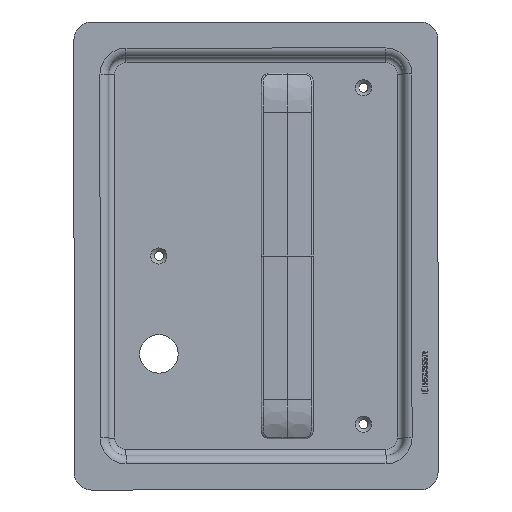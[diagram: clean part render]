
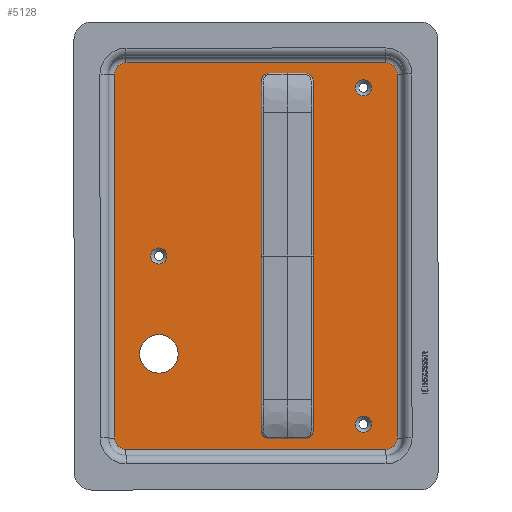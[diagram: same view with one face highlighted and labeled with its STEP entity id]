
A CAD part, front view. The second image highlights one B-rep face of the part: STEP entity #5128.
In plain terms, the highlighted planar face has unit normal (0, -1, 0) as drawn and (0, 0, -1) by its records, which use the part's own axes.
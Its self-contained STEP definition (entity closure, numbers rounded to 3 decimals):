
#388=FACE_BOUND('',#940,.T.);
#389=FACE_BOUND('',#941,.T.);
#390=FACE_BOUND('',#942,.T.);
#391=FACE_BOUND('',#943,.T.);
#392=FACE_BOUND('',#944,.T.);
#393=FACE_BOUND('',#945,.T.);
#394=FACE_BOUND('',#946,.T.);
#395=FACE_BOUND('',#947,.T.);
#425=PLANE('',#5542);
#634=FACE_OUTER_BOUND('',#939,.T.);
#939=EDGE_LOOP('',(#3541,#3542,#3543,#3544,#3545,#3546,#3547,#3548));
#940=EDGE_LOOP('',(#3549));
#941=EDGE_LOOP('',(#3550));
#942=EDGE_LOOP('',(#3551));
#943=EDGE_LOOP('',(#3552));
#944=EDGE_LOOP('',(#3553));
#945=EDGE_LOOP('',(#3554));
#946=EDGE_LOOP('',(#3555));
#947=EDGE_LOOP('',(#3556));
#1281=LINE('',#7106,#1699);
#1282=LINE('',#7110,#1700);
#1283=LINE('',#7114,#1701);
#1284=LINE('',#7118,#1702);
#1699=VECTOR('',#5945,10.);
#1700=VECTOR('',#5948,10.);
#1701=VECTOR('',#5951,10.);
#1702=VECTOR('',#5954,10.);
#2111=CIRCLE('',#5525,11.1);
#2113=CIRCLE('',#5528,2.75);
#2115=CIRCLE('',#5531,2.75);
#2117=CIRCLE('',#5534,2.75);
#2119=CIRCLE('',#5537,2.75);
#2121=CIRCLE('',#5540,4.65);
#2123=CIRCLE('',#5543,6.5);
#2124=CIRCLE('',#5544,6.5);
#2125=CIRCLE('',#5545,6.5);
#2126=CIRCLE('',#5546,6.5);
#2127=CIRCLE('',#5547,4.65);
#2128=CIRCLE('',#5548,4.65);
#2241=VERTEX_POINT('',#7068);
#2243=VERTEX_POINT('',#7074);
#2245=VERTEX_POINT('',#7080);
#2247=VERTEX_POINT('',#7086);
#2249=VERTEX_POINT('',#7092);
#2251=VERTEX_POINT('',#7098);
#2253=VERTEX_POINT('',#7104);
#2254=VERTEX_POINT('',#7105);
#2255=VERTEX_POINT('',#7107);
#2256=VERTEX_POINT('',#7109);
#2257=VERTEX_POINT('',#7111);
#2258=VERTEX_POINT('',#7113);
#2259=VERTEX_POINT('',#7115);
#2260=VERTEX_POINT('',#7117);
#2261=VERTEX_POINT('',#7120);
#2262=VERTEX_POINT('',#7122);
#2740=EDGE_CURVE('',#2241,#2241,#2111,.T.);
#2743=EDGE_CURVE('',#2243,#2243,#2113,.T.);
#2746=EDGE_CURVE('',#2245,#2245,#2115,.T.);
#2749=EDGE_CURVE('',#2247,#2247,#2117,.T.);
#2752=EDGE_CURVE('',#2249,#2249,#2119,.T.);
#2755=EDGE_CURVE('',#2251,#2251,#2121,.T.);
#2758=EDGE_CURVE('',#2253,#2254,#1281,.T.);
#2759=EDGE_CURVE('',#2254,#2255,#2123,.T.);
#2760=EDGE_CURVE('',#2255,#2256,#1282,.T.);
#2761=EDGE_CURVE('',#2256,#2257,#2124,.T.);
#2762=EDGE_CURVE('',#2257,#2258,#1283,.T.);
#2763=EDGE_CURVE('',#2258,#2259,#2125,.T.);
#2764=EDGE_CURVE('',#2259,#2260,#1284,.T.);
#2765=EDGE_CURVE('',#2260,#2253,#2126,.T.);
#2766=EDGE_CURVE('',#2261,#2261,#2127,.T.);
#2767=EDGE_CURVE('',#2262,#2262,#2128,.T.);
#3541=ORIENTED_EDGE('',*,*,#2758,.T.);
#3542=ORIENTED_EDGE('',*,*,#2759,.T.);
#3543=ORIENTED_EDGE('',*,*,#2760,.T.);
#3544=ORIENTED_EDGE('',*,*,#2761,.T.);
#3545=ORIENTED_EDGE('',*,*,#2762,.T.);
#3546=ORIENTED_EDGE('',*,*,#2763,.T.);
#3547=ORIENTED_EDGE('',*,*,#2764,.T.);
#3548=ORIENTED_EDGE('',*,*,#2765,.T.);
#3549=ORIENTED_EDGE('',*,*,#2740,.T.);
#3550=ORIENTED_EDGE('',*,*,#2743,.T.);
#3551=ORIENTED_EDGE('',*,*,#2746,.T.);
#3552=ORIENTED_EDGE('',*,*,#2749,.T.);
#3553=ORIENTED_EDGE('',*,*,#2752,.T.);
#3554=ORIENTED_EDGE('',*,*,#2766,.F.);
#3555=ORIENTED_EDGE('',*,*,#2767,.F.);
#3556=ORIENTED_EDGE('',*,*,#2755,.F.);
#5128=ADVANCED_FACE('',(#634,#388,#389,#390,#391,#392,#393,#394,#395),#425, .F.);
#5525=AXIS2_PLACEMENT_3D('',#7069,#5903,#5904);
#5528=AXIS2_PLACEMENT_3D('',#7075,#5910,#5911);
#5531=AXIS2_PLACEMENT_3D('',#7081,#5917,#5918);
#5534=AXIS2_PLACEMENT_3D('',#7087,#5924,#5925);
#5537=AXIS2_PLACEMENT_3D('',#7093,#5931,#5932);
#5540=AXIS2_PLACEMENT_3D('',#7099,#5938,#5939);
#5542=AXIS2_PLACEMENT_3D('',#7103,#5943,#5944);
#5543=AXIS2_PLACEMENT_3D('',#7108,#5946,#5947);
#5544=AXIS2_PLACEMENT_3D('',#7112,#5949,#5950);
#5545=AXIS2_PLACEMENT_3D('',#7116,#5952,#5953);
#5546=AXIS2_PLACEMENT_3D('',#7119,#5955,#5956);
#5547=AXIS2_PLACEMENT_3D('',#7121,#5957,#5958);
#5548=AXIS2_PLACEMENT_3D('',#7123,#5959,#5960);
#5903=DIRECTION('center_axis',(0.,0.,1.));
#5904=DIRECTION('ref_axis',(1.,0.,0.));
#5910=DIRECTION('center_axis',(0.,0.,1.));
#5911=DIRECTION('ref_axis',(1.,0.,0.));
#5917=DIRECTION('center_axis',(0.,0.,1.));
#5918=DIRECTION('ref_axis',(1.,0.,0.));
#5924=DIRECTION('center_axis',(0.,0.,1.));
#5925=DIRECTION('ref_axis',(1.,0.,0.));
#5931=DIRECTION('center_axis',(0.,0.,1.));
#5932=DIRECTION('ref_axis',(1.,0.,0.));
#5938=DIRECTION('center_axis',(0.,0.,-1.));
#5939=DIRECTION('ref_axis',(1.,0.,0.));
#5943=DIRECTION('center_axis',(0.,0.,1.));
#5944=DIRECTION('ref_axis',(1.,0.,0.));
#5945=DIRECTION('',(-1.,0.,0.));
#5946=DIRECTION('center_axis',(0.,0.,-1.));
#5947=DIRECTION('ref_axis',(-0.707,-0.707,0.));
#5948=DIRECTION('',(0.,1.,0.));
#5949=DIRECTION('center_axis',(0.,0.,-1.));
#5950=DIRECTION('ref_axis',(-0.707,0.707,0.));
#5951=DIRECTION('',(1.,0.,0.));
#5952=DIRECTION('center_axis',(0.,0.,-1.));
#5953=DIRECTION('ref_axis',(0.707,0.707,0.));
#5954=DIRECTION('',(0.,-1.,0.));
#5955=DIRECTION('center_axis',(0.,0.,-1.));
#5956=DIRECTION('ref_axis',(0.707,-0.707,0.));
#5957=DIRECTION('center_axis',(0.,0.,-1.));
#5958=DIRECTION('ref_axis',(1.,0.,0.));
#5959=DIRECTION('center_axis',(0.,0.,-1.));
#5960=DIRECTION('ref_axis',(1.,0.,0.));
#7068=CARTESIAN_POINT('',(46.957,-58.07,-3.028));
#7069=CARTESIAN_POINT('Origin',(58.057,-58.07,-3.028));
#7074=CARTESIAN_POINT('',(-11.193,-99.57,-3.028));
#7075=CARTESIAN_POINT('Origin',(-8.443,-99.57,-3.028));
#7080=CARTESIAN_POINT('',(-11.193,96.43,-3.028));
#7081=CARTESIAN_POINT('Origin',(-8.443,96.43,-3.028));
#7086=CARTESIAN_POINT('',(-26.193,96.43,-3.028));
#7087=CARTESIAN_POINT('Origin',(-23.443,96.43,-3.028));
#7092=CARTESIAN_POINT('',(-26.193,-99.57,-3.028));
#7093=CARTESIAN_POINT('Origin',(-23.443,-99.57,-3.028));
#7098=CARTESIAN_POINT('',(-64.593,-98.57,-3.028));
#7099=CARTESIAN_POINT('Origin',(-59.943,-98.57,-3.028));
#7103=CARTESIAN_POINT('Origin',(2.057,-1.57,-3.028));
#7104=CARTESIAN_POINT('',(77.057,-113.07,-3.028));
#7105=CARTESIAN_POINT('',(-72.943,-113.07,-3.028));
#7106=CARTESIAN_POINT('',(39.557,-113.07,-3.028));
#7107=CARTESIAN_POINT('',(-79.443,-106.57,-3.028));
#7108=CARTESIAN_POINT('Origin',(-72.943,-106.57,-3.028));
#7109=CARTESIAN_POINT('',(-79.443,103.43,-3.028));
#7110=CARTESIAN_POINT('',(-79.443,-54.07,-3.028));
#7111=CARTESIAN_POINT('',(-72.943,109.93,-3.028));
#7112=CARTESIAN_POINT('Origin',(-72.943,103.43,-3.028));
#7113=CARTESIAN_POINT('',(77.057,109.93,-3.028));
#7114=CARTESIAN_POINT('',(-35.443,109.93,-3.028));
#7115=CARTESIAN_POINT('',(83.557,103.43,-3.028));
#7116=CARTESIAN_POINT('Origin',(77.057,103.43,-3.028));
#7117=CARTESIAN_POINT('',(83.557,-106.57,-3.028));
#7118=CARTESIAN_POINT('',(83.557,50.93,-3.028));
#7119=CARTESIAN_POINT('Origin',(77.057,-106.57,-3.028));
#7120=CARTESIAN_POINT('',(-64.593,95.43,-3.028));
#7121=CARTESIAN_POINT('Origin',(-59.943,95.43,-3.028));
#7122=CARTESIAN_POINT('',(53.407,-1.57,-3.028));
#7123=CARTESIAN_POINT('Origin',(58.057,-1.57,-3.028));
